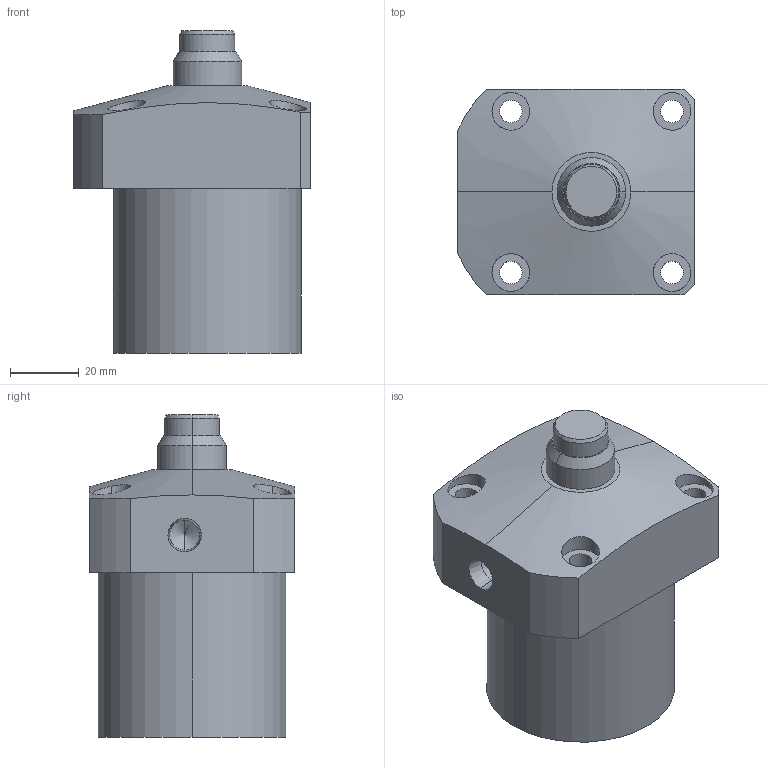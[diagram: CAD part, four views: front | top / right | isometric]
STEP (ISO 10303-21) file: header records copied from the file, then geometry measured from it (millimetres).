
FILE_DESCRIPTION (( 'STEP AP214' ), '1' );
FILE_NAME ('FW09-55.STEP', '2021-08-21T11:34:33', ( '' ), ( '' ), 'SwSTEP 2.0', 'SolidWorks 2019', '' );
FILE_SCHEMA (( 'AUTOMOTIVE_DESIGN' ));
Length unit declared in the file: millimetre
Products named in the file (3): plunger-pad; FW09-55; worksupport-body
Assembly tree (2 placements, depth 2):
  FW09-55
    worksupport-body
    plunger-pad
Bounding box: 69 x 60 x 94 mm (x, y, z)
Volume: 219101.2 mm3; surface area: 30944.1 mm2
Topology: 2 solids, 2 shells, 58 faces, 130 edges, 83 vertices
Faces by surface type: cylinder 30, plane 18, cone 10
Entity records: 2105 total; most frequent: CARTESIAN_POINT 669, DIRECTION 298, ORIENTED_EDGE 256, EDGE_CURVE 128, AXIS2_PLACEMENT_3D 123, VERTEX_POINT 83, EDGE_LOOP 75, CIRCLE 60
